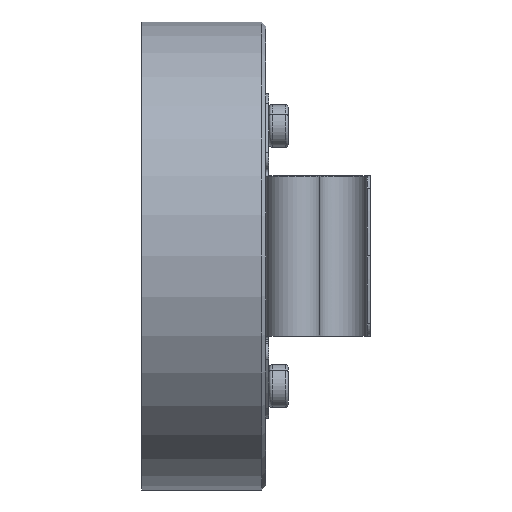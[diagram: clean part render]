
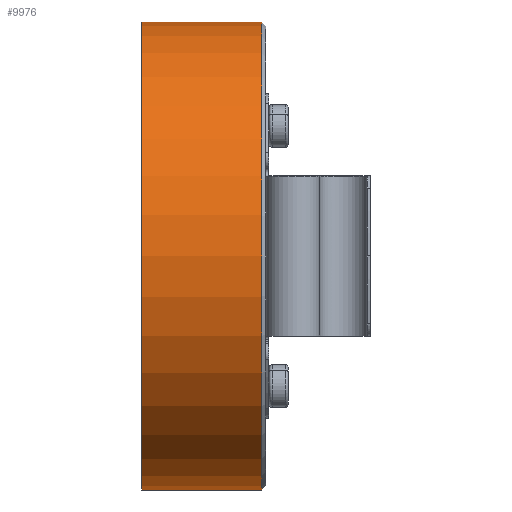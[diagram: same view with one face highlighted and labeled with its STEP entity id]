
A CAD part, left-side view. The second image highlights one B-rep face of the part: STEP entity #9976.
In plain terms, the highlighted cylindrical face has radius 29.25 mm (diameter 58.5 mm), a partial arc.
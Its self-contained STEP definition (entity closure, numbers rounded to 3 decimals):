
#994 = DIRECTION ( 'NONE',  ( 0., 0., -1. ) ) ;
#1714 = DIRECTION ( 'NONE',  ( 0., 1., 0. ) ) ;
#2703 = CIRCLE ( 'NONE', #27235, 29.25 ) ;
#4094 = DIRECTION ( 'NONE',  ( 0., 1., 0. ) ) ;
#5975 = CARTESIAN_POINT ( 'NONE',  ( 0., 15.5, 29.25 ) ) ;
#6352 = CARTESIAN_POINT ( 'NONE',  ( 0., 0.5, -29.25 ) ) ;
#7487 = AXIS2_PLACEMENT_3D ( 'NONE', #17699, #4094, #33711 ) ;
#7907 = FACE_OUTER_BOUND ( 'NONE', #9696, .T. ) ;
#8515 = CARTESIAN_POINT ( 'NONE',  ( 0., 32.8, 29.25 ) ) ;
#8617 = DIRECTION ( 'NONE',  ( 0., 1., 0. ) ) ;
#9074 = LINE ( 'NONE', #13844, #25284 ) ;
#9373 = VERTEX_POINT ( 'NONE', #23807 ) ;
#9696 = EDGE_LOOP ( 'NONE', ( #27020, #25227, #27863, #22346 ) ) ;
#9976 = ADVANCED_FACE ( 'NONE', ( #7907 ), #10406, .T. ) ;
#10406 = CYLINDRICAL_SURFACE ( 'NONE', #7487, 29.25 ) ;
#13844 = CARTESIAN_POINT ( 'NONE',  ( 0., 32.8, -29.25 ) ) ;
#14582 = VERTEX_POINT ( 'NONE', #23988 ) ;
#15211 = DIRECTION ( 'NONE',  ( 0., 0., 1. ) ) ;
#15523 = VERTEX_POINT ( 'NONE', #6352 ) ;
#16365 = EDGE_CURVE ( 'NONE', #14582, #26990, #2703, .T. ) ;
#16429 = CIRCLE ( 'NONE', #23271, 29.25 ) ;
#17699 = CARTESIAN_POINT ( 'NONE',  ( 0., 32.8, 0. ) ) ;
#21300 = VECTOR ( 'NONE', #8617, 1000. ) ;
#22346 = ORIENTED_EDGE ( 'NONE', *, *, #16365, .F. ) ;
#22964 = LINE ( 'NONE', #8515, #21300 ) ;
#23271 = AXIS2_PLACEMENT_3D ( 'NONE', #24825, #32722, #994 ) ;
#23390 = EDGE_CURVE ( 'NONE', #9373, #26990, #22964, .T. ) ;
#23807 = CARTESIAN_POINT ( 'NONE',  ( 0., 0.5, 29.25 ) ) ;
#23988 = CARTESIAN_POINT ( 'NONE',  ( 0., 15.5, -29.25 ) ) ;
#24825 = CARTESIAN_POINT ( 'NONE',  ( 0., 0.5, 0. ) ) ;
#25112 = DIRECTION ( 'NONE',  ( 0., 1., 0. ) ) ;
#25227 = ORIENTED_EDGE ( 'NONE', *, *, #30965, .T. ) ;
#25284 = VECTOR ( 'NONE', #25112, 1000. ) ;
#26990 = VERTEX_POINT ( 'NONE', #5975 ) ;
#27020 = ORIENTED_EDGE ( 'NONE', *, *, #32975, .F. ) ;
#27235 = AXIS2_PLACEMENT_3D ( 'NONE', #33702, #1714, #15211 ) ;
#27863 = ORIENTED_EDGE ( 'NONE', *, *, #23390, .T. ) ;
#30965 = EDGE_CURVE ( 'NONE', #15523, #9373, #16429, .T. ) ;
#32722 = DIRECTION ( 'NONE',  ( 0., 1., 0. ) ) ;
#32975 = EDGE_CURVE ( 'NONE', #15523, #14582, #9074, .T. ) ;
#33702 = CARTESIAN_POINT ( 'NONE',  ( 0., 15.5, 0. ) ) ;
#33711 = DIRECTION ( 'NONE',  ( 0., 0., 1. ) ) ;
